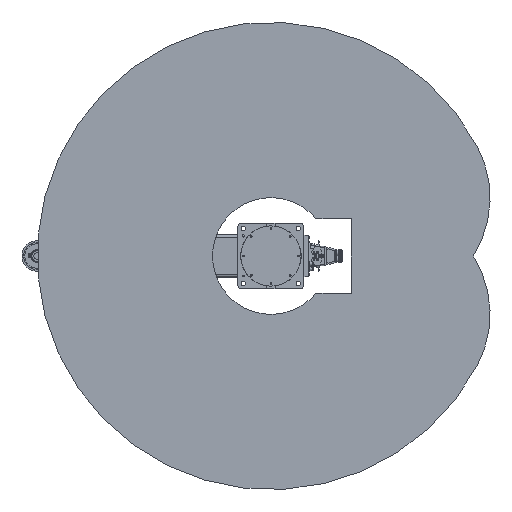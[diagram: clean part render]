
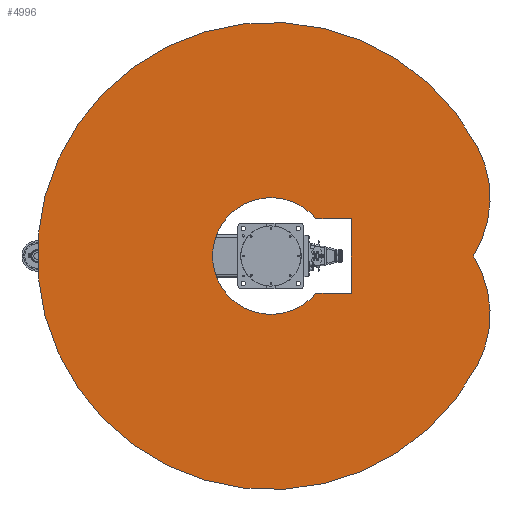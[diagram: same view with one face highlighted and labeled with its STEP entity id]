
A CAD part, front view. The second image highlights one B-rep face of the part: STEP entity #4996.
In plain terms, the highlighted planar face has unit normal (0, -1, 0).
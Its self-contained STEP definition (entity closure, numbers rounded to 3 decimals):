
#4996 = ADVANCED_FACE( '', ( #11607, #11608 ), #11609, .F. );
#11607 = FACE_BOUND( '', #20586, .T. );
#11608 = FACE_OUTER_BOUND( '', #20587, .T. );
#11609 = PLANE( '', #20588 );
#20586 = EDGE_LOOP( '', ( #35503, #35504, #35505, #35506 ) );
#20587 = EDGE_LOOP( '', ( #35507, #35508, #35509 ) );
#20588 = AXIS2_PLACEMENT_3D( '', #35510, #35511, #35512 );
#35503 = ORIENTED_EDGE( '', *, *, #50491, .T. );
#35504 = ORIENTED_EDGE( '', *, *, #51433, .T. );
#35505 = ORIENTED_EDGE( '', *, *, #51434, .T. );
#35506 = ORIENTED_EDGE( '', *, *, #49965, .T. );
#35507 = ORIENTED_EDGE( '', *, *, #49974, .F. );
#35508 = ORIENTED_EDGE( '', *, *, #46584, .F. );
#35509 = ORIENTED_EDGE( '', *, *, #51435, .F. );
#35510 = CARTESIAN_POINT( '', ( 105.631, 0., 198.663 ) );
#35511 = DIRECTION( '', ( 0., 1., 0. ) );
#35512 = DIRECTION( '', ( 0., 0., 1. ) );
#46584 = EDGE_CURVE( '', #54635, #54636, #54637, .T. );
#49965 = EDGE_CURVE( '', #60281, #60282, #60283, .T. );
#49974 = EDGE_CURVE( '', #54636, #60296, #60297, .T. );
#50491 = EDGE_CURVE( '', #60282, #61091, #61092, .T. );
#51433 = EDGE_CURVE( '', #61091, #62448, #62449, .T. );
#51434 = EDGE_CURVE( '', #62448, #60281, #62450, .T. );
#51435 = EDGE_CURVE( '', #60296, #54635, #62451, .T. );
#54635 = VERTEX_POINT( '', #66545 );
#54636 = VERTEX_POINT( '', #66546 );
#54637 = CIRCLE( '', #66547, 400. );
#60281 = VERTEX_POINT( '', #75920 );
#60282 = VERTEX_POINT( '', #75921 );
#60283 = LINE( '', #75922, #75923 );
#60296 = VERTEX_POINT( '', #75940 );
#60297 = CIRCLE( '', #75941, 400. );
#61091 = VERTEX_POINT( '', #77186 );
#61092 = LINE( '', #77187, #77188 );
#62448 = VERTEX_POINT( '', #79549 );
#62449 = CIRCLE( '', #79550, 212.4 );
#62450 = LINE( '', #79551, #79552 );
#62451 = CIRCLE( '', #79553, 850. );
#66545 = CARTESIAN_POINT( '', ( -399.051, 0., 750.505 ) );
#66546 = CARTESIAN_POINT( '', ( 0., 0., 736.985 ) );
#66547 = AXIS2_PLACEMENT_3D( '', #85624, #85625, #85626 );
#75920 = CARTESIAN_POINT( '', ( -135., 0., 292. ) );
#75921 = CARTESIAN_POINT( '', ( 135., 0., 292. ) );
#75922 = CARTESIAN_POINT( '', ( -135., 0., 292. ) );
#75923 = VECTOR( '', #89866, 1000. );
#75940 = CARTESIAN_POINT( '', ( 399.051, 0., 750.505 ) );
#75941 = AXIS2_PLACEMENT_3D( '', #89877, #89878, #89879 );
#77186 = CARTESIAN_POINT( '', ( 135., 0., 163.978 ) );
#77187 = CARTESIAN_POINT( '', ( 135., 0., 292. ) );
#77188 = VECTOR( '', #90542, 1000. );
#79549 = CARTESIAN_POINT( '', ( -135., 0., 163.978 ) );
#79550 = AXIS2_PLACEMENT_3D( '', #91620, #91621, #91622 );
#79551 = CARTESIAN_POINT( '', ( -135., 0., 163.978 ) );
#79552 = VECTOR( '', #91623, 1000. );
#79553 = AXIS2_PLACEMENT_3D( '', #91624, #91625, #91626 );
#85624 = CARTESIAN_POINT( '', ( -211.262, 0., 397.326 ) );
#85625 = DIRECTION( '', ( 0., 1., 0. ) );
#85626 = DIRECTION( '', ( 1., 0., 0. ) );
#89866 = DIRECTION( '', ( 1., 0., 0. ) );
#89877 = CARTESIAN_POINT( '', ( 211.262, 0., 397.326 ) );
#89878 = DIRECTION( '', ( 0., 1., 0. ) );
#89879 = DIRECTION( '', ( 1., 0., 0. ) );
#90542 = DIRECTION( '', ( 0., 0., -1. ) );
#91620 = CARTESIAN_POINT( '', ( 0., 0., 0. ) );
#91621 = DIRECTION( '', ( 0., 1., 0. ) );
#91622 = DIRECTION( '', ( 1., 0., 0. ) );
#91623 = DIRECTION( '', ( 0., 0., 1. ) );
#91624 = CARTESIAN_POINT( '', ( 0., 0., 0. ) );
#91625 = DIRECTION( '', ( 0., 1., 0. ) );
#91626 = DIRECTION( '', ( 1., 0., 0. ) );
